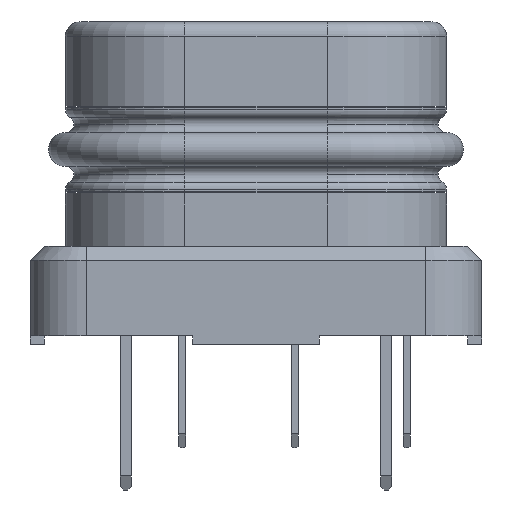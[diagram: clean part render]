
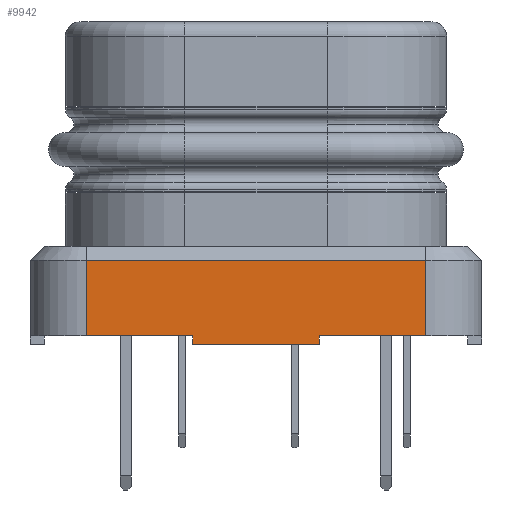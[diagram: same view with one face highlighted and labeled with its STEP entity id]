
A CAD part, left-side view. The second image highlights one B-rep face of the part: STEP entity #9942.
In plain terms, the highlighted planar face has unit normal (-1, 0, 0).
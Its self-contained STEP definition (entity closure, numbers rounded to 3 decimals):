
#987=DIRECTION('',(0.,0.,1.));
#988=VECTOR('',#987,2.7);
#989=CARTESIAN_POINT('',(-23.05,-56.05,52.14));
#990=LINE('',#989,#988);
#991=DIRECTION('',(0.,1.,0.));
#992=VECTOR('',#991,3.8);
#993=CARTESIAN_POINT('',(-23.05,-56.05,52.14));
#994=LINE('',#993,#992);
#995=DIRECTION('',(0.,1.,0.));
#996=VECTOR('',#995,4.5);
#997=CARTESIAN_POINT('',(-23.05,-52.25,51.84));
#998=LINE('',#997,#996);
#999=DIRECTION('',(0.,0.,1.));
#1000=VECTOR('',#999,0.3);
#1001=CARTESIAN_POINT('',(-23.05,-47.75,51.84));
#1002=LINE('',#1001,#1000);
#1003=DIRECTION('',(0.,1.,0.));
#1004=VECTOR('',#1003,3.8);
#1005=CARTESIAN_POINT('',(-23.05,-47.75,52.14));
#1006=LINE('',#1005,#1004);
#1011=DIRECTION('',(0.,0.,1.));
#1012=VECTOR('',#1011,0.3);
#1013=CARTESIAN_POINT('',(-23.05,-52.25,51.84));
#1014=LINE('',#1013,#1012);
#1240=DIRECTION('',(0.,1.,0.));
#1241=VECTOR('',#1240,12.1);
#1242=CARTESIAN_POINT('',(-23.05,-56.05,54.84));
#1243=LINE('',#1242,#1241);
#1261=DIRECTION('',(0.,0.,-1.));
#1262=VECTOR('',#1261,2.7);
#1263=CARTESIAN_POINT('',(-23.05,-43.95,54.84));
#1264=LINE('',#1263,#1262);
#7285=CARTESIAN_POINT('',(-23.05,-43.95,52.14));
#7286=VERTEX_POINT('',#7285);
#7287=CARTESIAN_POINT('',(-23.05,-47.75,52.14));
#7288=VERTEX_POINT('',#7287);
#7311=CARTESIAN_POINT('',(-23.05,-52.25,52.14));
#7312=VERTEX_POINT('',#7311);
#7313=CARTESIAN_POINT('',(-23.05,-56.05,52.14));
#7314=VERTEX_POINT('',#7313);
#7335=CARTESIAN_POINT('',(-23.05,-47.75,51.84));
#7336=VERTEX_POINT('',#7335);
#7337=CARTESIAN_POINT('',(-23.05,-56.05,54.84));
#7338=VERTEX_POINT('',#7337);
#7339=CARTESIAN_POINT('',(-23.05,-52.25,51.84));
#7340=VERTEX_POINT('',#7339);
#7341=CARTESIAN_POINT('',(-23.05,-43.95,54.84));
#7342=VERTEX_POINT('',#7341);
#9921=CARTESIAN_POINT('',(-23.05,-41.95,55.34));
#9922=DIRECTION('',(-1.,0.,0.));
#9923=DIRECTION('',(0.,-1.,0.));
#9924=AXIS2_PLACEMENT_3D('',#9921,#9922,#9923);
#9925=PLANE('',#9924);
#9926=ORIENTED_EDGE('',*,*,#9914,.F.);
#9927=ORIENTED_EDGE('',*,*,#9619,.T.);
#9929=ORIENTED_EDGE('',*,*,#9928,.F.);
#9931=ORIENTED_EDGE('',*,*,#9930,.T.);
#9933=ORIENTED_EDGE('',*,*,#9932,.T.);
#9935=ORIENTED_EDGE('',*,*,#9934,.T.);
#9937=ORIENTED_EDGE('',*,*,#9936,.F.);
#9939=ORIENTED_EDGE('',*,*,#9938,.F.);
#9940=EDGE_LOOP('',(#9926,#9927,#9929,#9931,#9933,#9935,#9937,#9939));
#9941=FACE_OUTER_BOUND('',#9940,.F.);
#9942=ADVANCED_FACE('',(#9941),#9925,.T.);
#9619=EDGE_CURVE('',#7314,#7312,#994,.T.);
#9914=EDGE_CURVE('',#7314,#7338,#990,.T.);
#9928=EDGE_CURVE('',#7340,#7312,#1014,.T.);
#9930=EDGE_CURVE('',#7340,#7336,#998,.T.);
#9932=EDGE_CURVE('',#7336,#7288,#1002,.T.);
#9934=EDGE_CURVE('',#7288,#7286,#1006,.T.);
#9936=EDGE_CURVE('',#7342,#7286,#1264,.T.);
#9938=EDGE_CURVE('',#7338,#7342,#1243,.T.);
